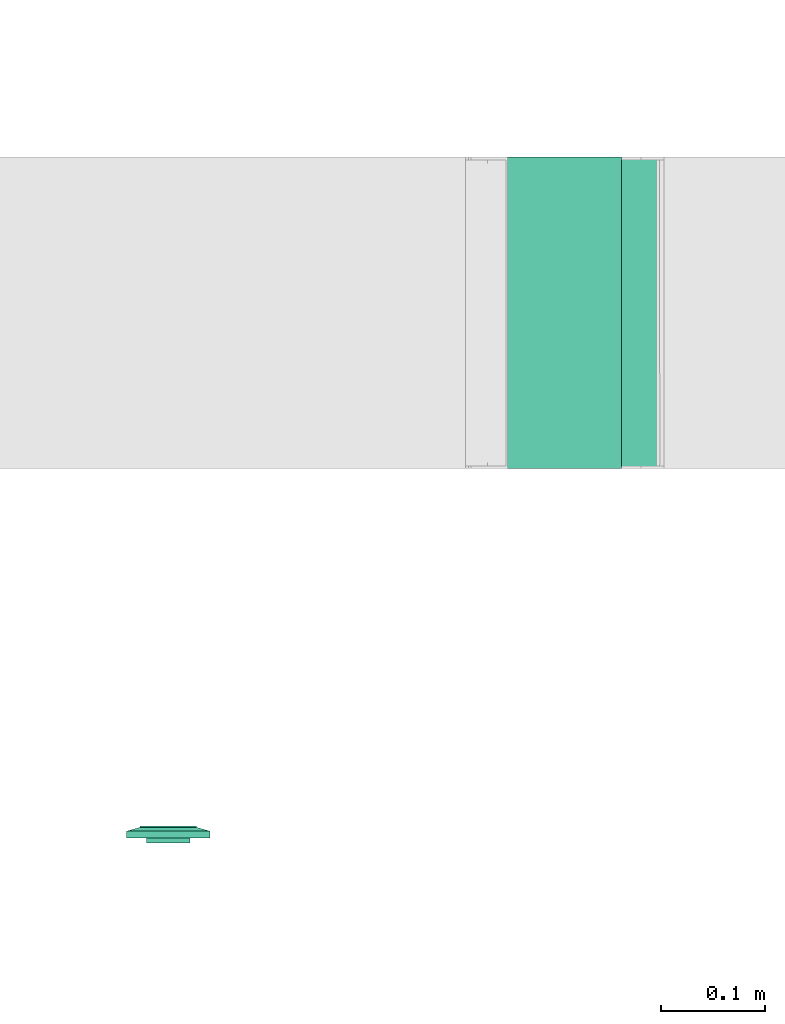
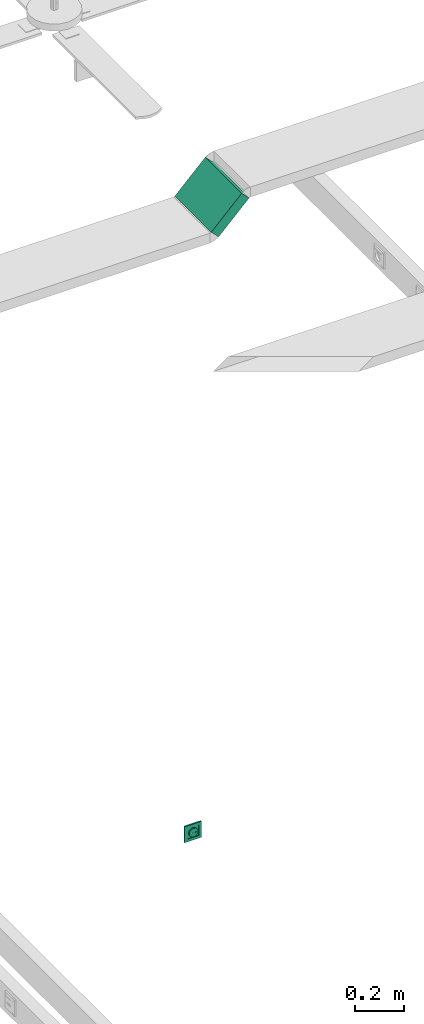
# One storey, part 56 of 166: 1 flow segment, 1 flow terminal.
"""IFC2X3 building model written with IfcOpenShell, lengths in metres."""

from ifc_helpers import new_model, entity, si_unit, converted_unit, derived_unit, direction, frame, frame_2d, origin, place, context, subcontext, project, spatial, rectangle, extrude, face_set, surface_model, source, transform, mapped, type_object, type_shapes, element, save


model = new_model("IFC2X3")

# Units and contexts
model_context = context("Model", 3, precision=1e-05, world=origin(), true_north=direction((6.12303176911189e-17, 1.0)))
body_context = subcontext(model_context, "Body", "Model", "MODEL_VIEW")
ifc_project = project(units=[si_unit("LENGTHUNIT", "METRE"), si_unit("AREAUNIT", "SQUARE_METRE"), si_unit("VOLUMEUNIT", "CUBIC_METRE"), converted_unit("PLANEANGLEUNIT", "DEGREE", entity("IfcRatioMeasure", 0.0174532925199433), si_unit("PLANEANGLEUNIT", "RADIAN"), dimensions=[0, 0, 0, 0, 0, 0, 0]), si_unit("MASSUNIT", "GRAM", prefix="KILO"), derived_unit("MASSDENSITYUNIT", [(si_unit("MASSUNIT", "GRAM", prefix="KILO"), 1), (si_unit("LENGTHUNIT", "METRE"), -3)]), si_unit("TIMEUNIT", "SECOND"), si_unit("FREQUENCYUNIT", "HERTZ"), si_unit("THERMODYNAMICTEMPERATUREUNIT", "DEGREE_CELSIUS"), derived_unit("THERMALTRANSMITTANCEUNIT", [(si_unit("MASSUNIT", "GRAM", prefix="KILO"), 1), (si_unit("THERMODYNAMICTEMPERATUREUNIT", "KELVIN"), -1), (si_unit("TIMEUNIT", "SECOND"), -3)]), derived_unit("VOLUMETRICFLOWRATEUNIT", [(si_unit("LENGTHUNIT", "METRE"), 3), (si_unit("TIMEUNIT", "SECOND"), -1)]), si_unit("ELECTRICCURRENTUNIT", "AMPERE"), si_unit("ELECTRICVOLTAGEUNIT", "VOLT"), si_unit("POWERUNIT", "WATT"), si_unit("FORCEUNIT", "NEWTON"), si_unit("ILLUMINANCEUNIT", "LUX"), si_unit("LUMINOUSFLUXUNIT", "LUMEN"), si_unit("LUMINOUSINTENSITYUNIT", "CANDELA"), derived_unit("USERDEFINED", [(si_unit("MASSUNIT", "GRAM", prefix="KILO"), -1), (si_unit("LENGTHUNIT", "METRE"), -2), (si_unit("TIMEUNIT", "SECOND"), 3), (si_unit("LUMINOUSFLUXUNIT", "LUMEN"), 1)]), derived_unit("LINEARVELOCITYUNIT", [(si_unit("LENGTHUNIT", "METRE"), 1), (si_unit("TIMEUNIT", "SECOND"), -1)]), si_unit("PRESSUREUNIT", "PASCAL"), derived_unit("USERDEFINED", [(si_unit("LENGTHUNIT", "METRE"), -2), (si_unit("MASSUNIT", "GRAM", prefix="KILO"), 1), (si_unit("TIMEUNIT", "SECOND"), -2)])], contexts=[model_context])

# Site, building, storey
site_placement = place(None, origin())
site = spatial("IfcSite", under=ifc_project, at=site_placement, Name="Default", CompositionType="ELEMENT")
building_placement = place(site_placement, origin())
building = spatial("IfcBuilding", under=site, at=building_placement, CompositionType="ELEMENT")
storey_placement = place(building_placement, frame((0.0, 0.0, 4.27)))
storey = spatial("IfcBuildingStorey", under=building, at=storey_placement, Name="01", CompositionType="ELEMENT", Elevation=4.27)

# Flow segment
cable_carrier_segment_type = type_object("IfcCableCarrierSegmentType", Name="Cable Tray with Fittings:Chemins de câbles en treillis_Chemins de câbles en treillis", PredefinedType="NOTDEFINED")
flow_segment_placement = place(storey_placement, origin())
element("IfcFlowSegment", 1, at=flow_segment_placement, inside=storey, type_object=cable_carrier_segment_type, Name="Cable Tray with Fittings:Chemins de câbles en treillis_Chemins de câbles en treillis", ObjectType="Cable Tray with Fittings:Chemins de câbles en treillis_Chemins de câbles en treillis", context=body_context, shape_type="SweptSolid", body=[
    extrude(rectangle(XDim=0.0500000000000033, YDim=0.205080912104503, at=frame_2d((-1.1518563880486e-15, -1.91686944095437e-15), x_axis=(0.0, 1.0))), frame((35.3254098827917, -188.237883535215, 2.75298194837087), z_axis=(0.0, 1.0, 0.0), x_axis=(-0.707106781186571, 0.0, -0.707106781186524)), (0.0, 0.0, 1.0), 0.300000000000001),
])

# Flow terminal
light_fixture_type = type_object("IfcLightFixtureType", Name="Attente", PredefinedType="NOTDEFINED")
shared_shape = source(origin(), body_context, "Body", "SurfaceModel", [
    surface_model("IfcFaceBasedSurfaceModel", [(0.00225000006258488, 0.00949633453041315, 0.0127499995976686), (0.0, 0.00949633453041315, 0.0104999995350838), (0.0, 0.0101656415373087, 0.0115376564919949), (0.0, 0.0101656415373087, 0.0139623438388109), (0.0, 0.00984531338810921, 0.0144589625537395), (0.0, 0.0102778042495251, 0.0121178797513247), (0.0, 0.0102778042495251, 0.0133821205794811), (0.0, 0.010399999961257, 0.0127499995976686), (0.0, 0.00949633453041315, 0.0149999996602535), (-0.00225000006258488, 0.00949633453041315, 0.0127499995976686), (0.0, 0.00984531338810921, 0.0110410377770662), (0.0, 0.00949633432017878, 0.0127499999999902), (-0.0022499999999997, 0.0094963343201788, 0.0127499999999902), (-0.00217333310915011, 0.00949633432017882, 0.0121676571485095), (-0.0019485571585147, 0.00949633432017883, 0.0116249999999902), (-0.00159099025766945, 0.00949633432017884, 0.0111590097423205), (-0.00112499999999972, 0.00949633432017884, 0.0108014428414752), (-0.000582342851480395, 0.00949633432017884, 0.0105766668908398), (0.0, 0.00949633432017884, 0.0104999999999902), (0.000582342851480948, 0.00949633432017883, 0.0105766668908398), (0.00112500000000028, 0.00949633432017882, 0.0108014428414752), (0.00159099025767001, 0.00949633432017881, 0.0111590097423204), (0.00194855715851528, 0.00949633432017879, 0.0116249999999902), (0.0021733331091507, 0.00949633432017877, 0.0121676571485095), (0.0022500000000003, 0.00949633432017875, 0.0127499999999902), (0.00217333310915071, 0.00949633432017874, 0.0133323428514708), (0.0019485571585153, 0.00949633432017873, 0.0138749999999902), (0.00159099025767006, 0.00949633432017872, 0.0143409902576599), (0.00112500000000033, 0.00949633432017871, 0.0146985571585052), (0.000582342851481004, 0.00949633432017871, 0.0149233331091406), (0.0, 0.00949633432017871, 0.0149999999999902), (-0.000582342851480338, 0.00949633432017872, 0.0149233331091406), (-0.00112499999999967, 0.00949633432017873, 0.0146985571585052), (-0.00159099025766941, 0.00949633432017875, 0.0143409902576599), (-0.00194855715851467, 0.00949633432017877, 0.0138749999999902), (-0.00217333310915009, 0.00949633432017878, 0.0133323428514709), (-0.00224999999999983, -0.00360000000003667, 0.0127499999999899), (-0.00217333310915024, -0.00360000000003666, 0.0121676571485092), (-0.00194855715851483, -0.00360000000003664, 0.0116249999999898), (-0.00159099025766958, -0.00360000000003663, 0.0111590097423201), (-0.00112499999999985, -0.00360000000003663, 0.0108014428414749), (-0.000582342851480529, -0.00360000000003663, 0.0105766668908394), (0.0, -0.00360000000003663, 0.0104999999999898), (0.000582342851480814, -0.00360000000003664, 0.0105766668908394), (0.00112500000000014, -0.00360000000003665, 0.0108014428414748), (0.00159099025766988, -0.00360000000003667, 0.0111590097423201), (0.00194855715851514, -0.00360000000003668, 0.0116249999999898), (0.00217333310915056, -0.0036000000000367, 0.0121676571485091), (0.00225000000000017, -0.00360000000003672, 0.0127499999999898), (0.00217333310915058, -0.00360000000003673, 0.0133323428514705), (0.00194855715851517, -0.00360000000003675, 0.0138749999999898), (0.00159099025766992, -0.00360000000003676, 0.0143409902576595), (0.00112500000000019, -0.00360000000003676, 0.0146985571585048), (0.00058234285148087, -0.00360000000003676, 0.0149233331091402), (0.0, -0.00360000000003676, 0.0149999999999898), (-0.000582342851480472, -0.00360000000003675, 0.0149233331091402), (-0.0011249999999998, -0.00360000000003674, 0.0146985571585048), (-0.00159099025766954, -0.00360000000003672, 0.0143409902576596), (-0.0019485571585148, -0.00360000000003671, 0.0138749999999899), (-0.00217333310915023, -0.00360000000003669, 0.0133323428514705), (-0.0270000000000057, 0.0113999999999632, 0.0269999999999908), (0.0269999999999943, 0.0113999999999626, 0.0269999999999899), (0.0269999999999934, 0.0113999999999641, -0.0270000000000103), (-0.0270000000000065, 0.0113999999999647, -0.0270000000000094), (0.0199999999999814, 0.0113999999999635, 0.0), (0.0193185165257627, 0.0113999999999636, -0.00517638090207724), (0.0173205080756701, 0.0113999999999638, -0.0100000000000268), (0.0141421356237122, 0.0113999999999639, -0.0141421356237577), (0.00999999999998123, 0.011399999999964, -0.0173205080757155), (0.00517638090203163, 0.0113999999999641, -0.019318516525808), (0.0, 0.0113999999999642, -0.0200000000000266), (-0.00517638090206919, 0.0113999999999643, -0.0193185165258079), (-0.0100000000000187, 0.0113999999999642, -0.0173205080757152), (-0.0141421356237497, 0.0113999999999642, -0.0141421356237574), (-0.0173205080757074, 0.0113999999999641, -0.0100000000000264), (-0.0193185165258, 0.011399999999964, -0.0051763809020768), (-0.0200000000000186, 0.0113999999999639, 0.0), (-0.0193185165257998, 0.0113999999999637, 0.00517638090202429), (-0.0173205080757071, 0.0113999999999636, 0.00999999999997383), (-0.0141421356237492, 0.0113999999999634, 0.0141421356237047), (-0.0100000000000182, 0.0113999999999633, 0.0173205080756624), (-0.00517638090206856, 0.0113999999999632, 0.0193185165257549), (0.0, 0.0113999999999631, 0.0199999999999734), (0.00517638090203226, 0.0113999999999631, 0.0193185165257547), (0.0099999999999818, 0.0113999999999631, 0.017320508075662), (0.0141421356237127, 0.0113999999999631, 0.0141421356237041), (0.0173205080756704, 0.0113999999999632, 0.00999999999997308), (0.0193185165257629, 0.0113999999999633, 0.00517638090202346), (-0.0270000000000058, 0.00199999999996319, 0.0269999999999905), (-0.0270000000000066, 0.00199999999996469, -0.0270000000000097), (0.0269999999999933, 0.00199999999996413, -0.0270000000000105), (0.0269999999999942, 0.00199999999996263, 0.0269999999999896), (-0.0210000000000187, 0.00199999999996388, 0.0), (-0.0202844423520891, 0.00199999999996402, -0.00543519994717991), (-0.0181865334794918, 0.00199999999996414, -0.0105000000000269), (-0.0148492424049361, 0.00199999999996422, -0.0148492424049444), (-0.0105000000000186, 0.00199999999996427, -0.0181865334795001), (-0.00543519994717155, 0.00199999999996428, -0.0202844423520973), (0.0, 0.00199999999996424, -0.0210000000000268), (0.00543519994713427, 0.00199999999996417, -0.0202844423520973), (0.0104999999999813, 0.00199999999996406, -0.0181865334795), (0.0148492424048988, 0.00199999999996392, -0.0148492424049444), (0.0181865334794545, 0.00199999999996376, -0.0105000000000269), (0.0202844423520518, 0.0019999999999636, -0.00543519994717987), (0.0209999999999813, 0.00199999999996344, 0.0), (0.0202844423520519, 0.0019999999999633, 0.0054351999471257), (0.0181865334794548, 0.00199999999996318, 0.0104999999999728), (0.0148492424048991, 0.00199999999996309, 0.0148492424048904), (0.0104999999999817, 0.00199999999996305, 0.0181865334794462), (0.00543519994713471, 0.00199999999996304, 0.0202844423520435), (0.0, 0.00199999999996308, 0.0209999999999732), (-0.00543519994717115, 0.00199999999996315, 0.0202844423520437), (-0.0105000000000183, 0.00199999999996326, 0.0181865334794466), (-0.0148492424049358, 0.0019999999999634, 0.014849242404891), (-0.0181865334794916, 0.00199999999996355, 0.0104999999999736), (-0.020284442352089, 0.00199999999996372, 0.00543519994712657), (-0.0200000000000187, -0.00360000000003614, 0.0), (-0.0193185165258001, -0.003600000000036, -0.00517638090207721), (-0.0173205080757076, -0.00360000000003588, -0.0100000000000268), (-0.0141421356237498, -0.0036000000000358, -0.0141421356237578), (-0.0100000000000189, -0.00360000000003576, -0.0173205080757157), (-0.00517638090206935, -0.00360000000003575, -0.0193185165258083), (0.0, -0.00360000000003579, -0.020000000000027), (0.00517638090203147, -0.00360000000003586, -0.0193185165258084), (0.00999999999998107, -0.00360000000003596, -0.0173205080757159), (0.0141421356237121, -0.00360000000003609, -0.0141421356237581), (0.0173205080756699, -0.00360000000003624, -0.0100000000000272), (0.0193185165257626, -0.0036000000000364, -0.00517638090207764), (0.0199999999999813, -0.00360000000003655, 0.0), (0.0193185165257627, -0.00360000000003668, 0.00517638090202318), (0.0173205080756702, -0.0036000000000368, 0.00999999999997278), (0.0141421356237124, -0.00360000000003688, 0.0141421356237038), (0.00999999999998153, -0.00360000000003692, 0.0173205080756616), (0.00517638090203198, -0.00360000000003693, 0.0193185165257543), (0.0, -0.0036000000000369, 0.019999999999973), (-0.00517638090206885, -0.00360000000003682, 0.0193185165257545), (-0.0100000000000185, -0.00360000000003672, 0.0173205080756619), (-0.0141421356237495, -0.00360000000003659, 0.0141421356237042), (-0.0173205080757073, -0.00360000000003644, 0.00999999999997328), (-0.0193185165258, -0.00360000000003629, 0.00517638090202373), (0.0123499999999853, -0.00360000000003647, 0.0), (0.0122562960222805, -0.00360000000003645, -0.000711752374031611), (0.0119815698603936, -0.00360000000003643, -0.00137499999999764), (0.0115445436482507, -0.00360000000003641, -0.00194454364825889), (0.0109749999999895, -0.00360000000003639, -0.00238156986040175), (0.0103117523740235, -0.00360000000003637, -0.00265629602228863), (0.00959999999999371, -0.00360000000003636, -0.00274999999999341), (0.00888824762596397, -0.00360000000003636, -0.00265629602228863), (0.00822499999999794, -0.00360000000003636, -0.00238156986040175), (0.00765545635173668, -0.00360000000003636, -0.00194454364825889), (0.00721843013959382, -0.00360000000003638, -0.00137499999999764), (0.00694370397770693, -0.00360000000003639, -0.000711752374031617), (0.00685000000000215, -0.00360000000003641, 0.0), (0.00694370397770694, -0.00360000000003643, 0.000711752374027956), (0.00721843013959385, -0.00360000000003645, 0.00137499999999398), (0.00765545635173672, -0.00360000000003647, 0.00194454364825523), (0.00822499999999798, -0.00360000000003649, 0.00238156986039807), (0.00888824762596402, -0.00360000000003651, 0.00265629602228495), (0.00959999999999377, -0.00360000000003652, 0.0027499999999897), (0.0103117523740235, -0.00360000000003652, 0.00265629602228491), (0.0109749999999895, -0.00360000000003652, 0.00238156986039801), (0.0115445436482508, -0.00360000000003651, 0.00194454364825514), (0.0119815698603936, -0.0036000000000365, 0.00137499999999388), (0.0122562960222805, -0.00360000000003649, 0.000711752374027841), (-0.00685000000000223, -0.00360000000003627, 0.0), (-0.00694370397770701, -0.00360000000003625, -0.000711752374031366), (-0.0072184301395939, -0.00360000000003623, -0.00137499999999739), (-0.00765545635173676, -0.00360000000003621, -0.00194454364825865), (-0.00822499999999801, -0.00360000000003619, -0.0023815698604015), (-0.00888824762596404, -0.00360000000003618, -0.00265629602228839), (-0.00959999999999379, -0.00360000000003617, -0.00274999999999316), (-0.0103117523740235, -0.00360000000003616, -0.00265629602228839), (-0.0109749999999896, -0.00360000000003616, -0.00238156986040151), (-0.0115445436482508, -0.00360000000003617, -0.00194454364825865), (-0.0119815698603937, -0.00360000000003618, -0.0013749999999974), (-0.0122562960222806, -0.0036000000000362, -0.000711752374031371), (-0.0123499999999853, -0.00360000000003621, 0.0), (-0.0122562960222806, -0.00360000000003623, 0.000711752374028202), (-0.0119815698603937, -0.00360000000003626, 0.00137499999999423), (-0.0115445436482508, -0.00360000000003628, 0.00194454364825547), (-0.0109749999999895, -0.00360000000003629, 0.00238156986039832), (-0.0103117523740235, -0.00360000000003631, 0.00265629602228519), (-0.00959999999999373, -0.00360000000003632, 0.00274999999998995), (-0.00888824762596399, -0.00360000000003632, 0.00265629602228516), (-0.00822499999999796, -0.00360000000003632, 0.00238156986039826), (-0.00765545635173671, -0.00360000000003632, 0.00194454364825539), (-0.00721843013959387, -0.0036000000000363, 0.00137499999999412), (-0.00694370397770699, -0.00360000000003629, 0.000711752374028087), (-0.0210000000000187, -0.00460000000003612, 0.0), (-0.0202844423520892, -0.00460000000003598, -0.00543519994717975), (-0.018186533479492, -0.00460000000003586, -0.0105000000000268), (-0.0148492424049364, -0.00460000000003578, -0.0148492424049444), (-0.0105000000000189, -0.00460000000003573, -0.0181865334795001), (-0.00543519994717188, -0.00460000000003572, -0.0202844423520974), (0.0, -0.00460000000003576, -0.021000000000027), (0.00543519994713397, -0.00460000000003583, -0.0202844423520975), (0.0104999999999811, -0.00460000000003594, -0.0181865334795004), (0.0148492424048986, -0.00460000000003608, -0.0148492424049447), (0.0181865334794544, -0.00460000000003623, -0.0105000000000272), (0.0202844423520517, -0.0046000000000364, -0.0054351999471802), (0.0209999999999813, -0.00460000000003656, 0.0), (0.0202844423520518, -0.0046000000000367, 0.00543519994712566), (0.0181865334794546, -0.00460000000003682, 0.0104999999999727), (0.014849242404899, -0.00460000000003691, 0.0148492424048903), (0.0104999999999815, -0.00460000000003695, 0.0181865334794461), (0.0054351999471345, -0.00460000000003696, 0.0202844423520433), (0.0, -0.00460000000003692, 0.020999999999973), (-0.00543519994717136, -0.00460000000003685, 0.0202844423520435), (-0.0105000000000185, -0.00460000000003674, 0.0181865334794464), (-0.014849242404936, -0.0046000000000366, 0.0148492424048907), (-0.0181865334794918, -0.00460000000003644, 0.0104999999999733), (-0.0202844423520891, -0.00460000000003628, 0.00543519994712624), (0.00685000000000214, -0.00460000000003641, 0.0), (0.00694370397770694, -0.00460000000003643, 0.000711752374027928), (0.00721843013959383, -0.00460000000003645, 0.00137499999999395), (0.0076554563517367, -0.00460000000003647, 0.0019445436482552), (0.00822499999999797, -0.00460000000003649, 0.00238156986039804), (0.00888824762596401, -0.0046000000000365, 0.00265629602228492), (0.00959999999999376, -0.00460000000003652, 0.00274999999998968), (0.0103117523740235, -0.00460000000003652, 0.00265629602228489), (0.0109749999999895, -0.00460000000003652, 0.00238156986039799), (0.0115445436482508, -0.00460000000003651, 0.00194454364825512), (0.0119815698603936, -0.0046000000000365, 0.00137499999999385), (0.0122562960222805, -0.00460000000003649, 0.000711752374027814), (0.0123499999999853, -0.00460000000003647, 0.0), (0.0122562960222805, -0.00460000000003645, -0.00071175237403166), (0.0119815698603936, -0.00460000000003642, -0.00137499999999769), (0.0115445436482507, -0.0046000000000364, -0.00194454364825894), (0.0109749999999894, -0.00460000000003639, -0.00238156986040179), (0.0103117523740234, -0.00460000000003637, -0.00265629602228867), (0.00959999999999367, -0.00460000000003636, -0.00274999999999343), (0.00888824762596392, -0.00460000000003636, -0.00265629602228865), (0.00822499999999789, -0.00460000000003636, -0.00238156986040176), (0.00765545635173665, -0.00460000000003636, -0.00194454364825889), (0.00721843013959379, -0.00460000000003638, -0.00137499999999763), (0.00694370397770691, -0.00460000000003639, -0.0007117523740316), (-0.0123499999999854, -0.00460000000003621, 0.0), (-0.0122562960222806, -0.00460000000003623, 0.000711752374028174), (-0.0119815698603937, -0.00460000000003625, 0.0013749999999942), (-0.0115445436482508, -0.00460000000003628, 0.00194454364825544), (-0.0109749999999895, -0.00460000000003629, 0.00238156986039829), (-0.0103117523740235, -0.00460000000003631, 0.00265629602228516), (-0.00959999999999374, -0.00460000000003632, 0.00274999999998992), (-0.008888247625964, -0.00460000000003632, 0.00265629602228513), (-0.00822499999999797, -0.00460000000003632, 0.00238156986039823), (-0.00765545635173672, -0.00460000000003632, 0.00194454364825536), (-0.00721843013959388, -0.0046000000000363, 0.0013749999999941), (-0.006943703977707, -0.00460000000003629, 0.000711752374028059), (-0.00685000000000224, -0.00460000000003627, 0.0), (-0.00694370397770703, -0.00460000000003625, -0.000711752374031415), (-0.00721843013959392, -0.00460000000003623, -0.00137499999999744), (-0.00765545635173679, -0.00460000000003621, -0.00194454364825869), (-0.00822499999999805, -0.00460000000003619, -0.00238156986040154), (-0.00888824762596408, -0.00460000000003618, -0.00265629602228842), (-0.00959999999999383, -0.00460000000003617, -0.00274999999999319), (-0.0103117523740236, -0.00460000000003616, -0.00265629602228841), (-0.0109749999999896, -0.00460000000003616, -0.00238156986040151), (-0.0115445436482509, -0.00460000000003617, -0.00194454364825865), (-0.0119815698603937, -0.00460000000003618, -0.00137499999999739), (-0.0122562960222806, -0.00460000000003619, -0.000711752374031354), (-0.0403499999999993, 0.00659999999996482, 0.0403499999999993), (-0.0403500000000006, 0.00659999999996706, -0.0403500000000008), (0.0403499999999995, 0.00659999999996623, -0.0403500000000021), (0.0403500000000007, 0.00659999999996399, 0.040349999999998), (-0.0269999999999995, 0.00659999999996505, 0.026999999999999), (0.0270000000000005, 0.0065999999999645, 0.0269999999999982), (0.0269999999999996, 0.006599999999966, -0.0270000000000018), (-0.0270000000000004, 0.00659999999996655, -0.027000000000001), (-0.0269999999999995, 0.0103999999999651, 0.0269999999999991), (0.0270000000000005, 0.0103999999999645, 0.0269999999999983), (0.0269999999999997, 0.010399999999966, -0.0270000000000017), (-0.0270000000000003, 0.0103999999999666, -0.0270000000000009), (-0.0403499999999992, 0.00659999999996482, 0.0403499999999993), (-0.0403500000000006, 0.00659999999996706, -0.0403500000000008), (0.0403499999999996, 0.00659999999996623, -0.0403500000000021), (0.0403500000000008, 0.00659999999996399, 0.040349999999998), (0.0270000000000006, 0.0065999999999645, 0.0269999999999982), (0.0269999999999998, 0.006599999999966, -0.0270000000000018), (-0.0270000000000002, 0.00659999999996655, -0.027000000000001), (-0.0269999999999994, 0.00659999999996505, 0.026999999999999), (-0.0403499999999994, 0.0, 0.0403499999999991), (-0.0403500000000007, 0.0, -0.040350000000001), (0.0403499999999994, 0.0, -0.0403500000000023), (0.0403500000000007, 0.0, 0.0403499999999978), (-0.0269999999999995, 0.0, 0.0269999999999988), (0.0270000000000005, 0.0, 0.026999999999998), (0.0269999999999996, 0.0, -0.027000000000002), (-0.0270000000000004, 0.0, -0.0270000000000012)], [face_set([[[0, 1, 2]], [[3, 4, 2, 5]], [[6, 3, 5, 7]], [[2, 4, 0]], [[4, 8, 0]], [[3, 9, 8]], [[1, 9, 10]], [[2, 3, 6, 7]], [[3, 10, 9]], [[2, 10, 3]], [[11, 1, 0, 8]], [[11, 8, 9, 1]]]), face_set([[[12, 13, 14, 15, 16, 17, 18, 19, 20, 21, 22, 23, 24, 25, 26, 27, 28, 29, 30, 31, 32, 33, 34, 35]], [[36, 37, 38, 39, 40, 41, 42, 43, 44, 45, 46, 47, 48, 49, 50, 51, 52, 53, 54, 55, 56, 57, 58, 59]], [[48, 47, 23, 24]], [[47, 46, 22, 23]], [[45, 44, 20, 21]], [[46, 45, 21, 22]], [[44, 43, 19, 20]], [[18, 19, 43, 42]], [[42, 41, 17, 18]], [[41, 40, 16, 17]], [[39, 38, 14, 15]], [[40, 39, 15, 16]], [[38, 37, 13, 14]], [[12, 13, 37, 36]], [[36, 59, 35, 12]], [[59, 58, 34, 35]], [[57, 56, 32, 33]], [[58, 57, 33, 34]], [[56, 55, 31, 32]], [[30, 31, 55, 54]], [[54, 53, 29, 30]], [[53, 52, 28, 29]], [[51, 50, 26, 27]], [[52, 51, 27, 28]], [[50, 49, 25, 26]], [[24, 25, 49, 48]]]), face_set([[[60, 61, 62, 63], [64, 65, 66, 67, 68, 69, 70, 71, 72, 73, 74, 75, 76, 77, 78, 79, 80, 81, 82, 83, 84, 85, 86, 87]], [[88, 89, 90, 91], [92, 93, 94, 95, 96, 97, 98, 99, 100, 101, 102, 103, 104, 105, 106, 107, 108, 109, 110, 111, 112, 113, 114, 115]], [[61, 60, 88, 91]], [[62, 61, 91, 90]], [[63, 62, 90, 89]], [[60, 63, 89, 88]], [[116, 117, 118, 119, 120, 121, 122, 123, 124, 125, 126, 127, 128, 129, 130, 131, 132, 133, 134, 135, 136, 137, 138, 139], [140, 141, 142, 143, 144, 145, 146, 147, 148, 149, 150, 151, 152, 153, 154, 155, 156, 157, 158, 159, 160, 161, 162, 163], [164, 165, 166, 167, 168, 169, 170, 171, 172, 173, 174, 175, 176, 177, 178, 179, 180, 181, 182, 183, 184, 185, 186, 187]], [[64, 128, 127, 65]], [[65, 127, 126, 66]], [[67, 125, 124, 68]], [[66, 126, 125, 67]], [[68, 124, 123, 69]], [[122, 70, 69, 123]], [[70, 122, 121, 71]], [[71, 121, 120, 72]], [[73, 119, 118, 74]], [[72, 120, 119, 73]], [[74, 118, 117, 75]], [[116, 76, 75, 117]], [[76, 116, 139, 77]], [[77, 139, 138, 78]], [[79, 137, 136, 80]], [[78, 138, 137, 79]], [[80, 136, 135, 81]], [[134, 82, 81, 135]], [[82, 134, 133, 83]], [[83, 133, 132, 84]], [[84, 132, 131, 85]], [[85, 131, 130, 86]], [[130, 129, 87, 86]], [[64, 87, 129, 128]], [[188, 189, 190, 191, 192, 193, 194, 195, 196, 197, 198, 199, 200, 201, 202, 203, 204, 205, 206, 207, 208, 209, 210, 211], [212, 213, 214, 215, 216, 217, 218, 219, 220, 221, 222, 223, 224, 225, 226, 227, 228, 229, 230, 231, 232, 233, 234, 235], [236, 237, 238, 239, 240, 241, 242, 243, 244, 245, 246, 247, 248, 249, 250, 251, 252, 253, 254, 255, 256, 257, 258, 259]], [[200, 199, 103, 104]], [[199, 198, 102, 103]], [[197, 196, 100, 101]], [[198, 197, 101, 102]], [[196, 195, 99, 100]], [[98, 99, 195, 194]], [[194, 193, 97, 98]], [[193, 192, 96, 97]], [[191, 190, 94, 95]], [[192, 191, 95, 96]], [[190, 189, 93, 94]], [[92, 93, 189, 188]], [[188, 211, 115, 92]], [[211, 210, 114, 115]], [[209, 208, 112, 113]], [[210, 209, 113, 114]], [[208, 207, 111, 112]], [[110, 111, 207, 206]], [[206, 205, 109, 110]], [[205, 204, 108, 109]], [[203, 202, 106, 107]], [[204, 203, 107, 108]], [[202, 201, 105, 106]], [[104, 105, 201, 200]], [[141, 225, 226, 142]], [[140, 224, 225, 141]], [[144, 228, 229, 145]], [[143, 227, 228, 144]], [[142, 226, 227, 143]], [[230, 146, 145, 229]], [[149, 233, 232, 148]], [[148, 232, 231, 147]], [[152, 212, 235, 151]], [[151, 235, 234, 150]], [[150, 234, 233, 149]], [[146, 230, 231, 147]], [[154, 214, 213, 153]], [[153, 213, 212, 152]], [[157, 217, 216, 156]], [[156, 216, 215, 155]], [[155, 215, 214, 154]], [[218, 158, 157, 217]], [[160, 220, 221, 161]], [[159, 219, 220, 160]], [[163, 223, 224, 140]], [[162, 222, 223, 163]], [[161, 221, 222, 162]], [[158, 218, 219, 159]], [[166, 250, 249, 165]], [[165, 249, 248, 164]], [[169, 253, 252, 168]], [[168, 252, 251, 167]], [[167, 251, 250, 166]], [[254, 170, 169, 253]], [[172, 256, 257, 173]], [[171, 255, 256, 172]], [[175, 259, 236, 176]], [[174, 258, 259, 175]], [[173, 257, 258, 174]], [[170, 254, 255, 171]], [[177, 237, 238, 178]], [[176, 236, 237, 177]], [[180, 240, 241, 181]], [[179, 239, 240, 180]], [[178, 238, 239, 179]], [[242, 182, 181, 241]], [[185, 245, 244, 184]], [[184, 244, 243, 183]], [[164, 248, 247, 187]], [[187, 247, 246, 186]], [[186, 246, 245, 185]], [[182, 242, 243, 183]]]), face_set([[[260, 261, 262, 263], [264, 265, 266, 267]], [[260, 268, 269, 263]], [[263, 269, 270, 262]], [[262, 270, 271, 261]], [[261, 271, 268, 260]], [[264, 265, 269, 268]], [[265, 266, 270, 269]], [[266, 267, 271, 270]], [[268, 271, 267, 264]]]), face_set([[[272, 273, 274, 275], [276, 277, 278, 279]], [[280, 281, 282, 283], [284, 285, 286, 287]], [[275, 272, 280, 283]], [[274, 275, 283, 282]], [[273, 274, 282, 281]], [[272, 273, 281, 280]], [[284, 285, 276, 279]], [[285, 286, 277, 276]], [[286, 287, 278, 277]], [[279, 278, 287, 284]]])]),
])
type_shapes(light_fixture_type, [shared_shape])
flow_terminal_placement = place(storey_placement, frame((34.9438332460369, -188.593469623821, 0.0)))
element("IfcFlowTerminal", 2, at=flow_terminal_placement, inside=storey, type_object=light_fixture_type, Name="INT_Attente électrique:Attente", ObjectType="INT_Attente électrique:Attente", context=body_context, shape_type="MappedRepresentation", body=[
    mapped(shared_shape, transform((0.0, 0.0, 0.0), scale=1.0)),
])

save(model, "model.ifc")
